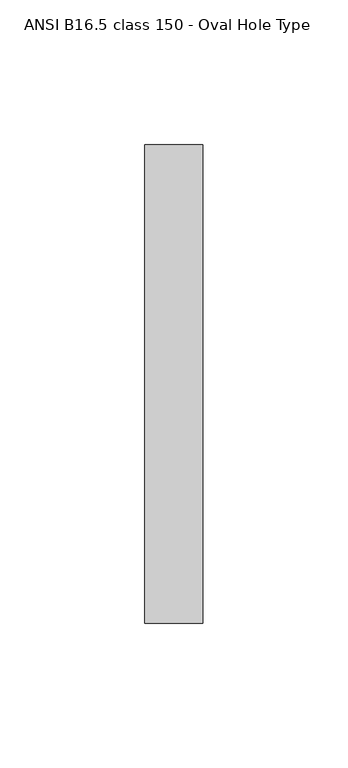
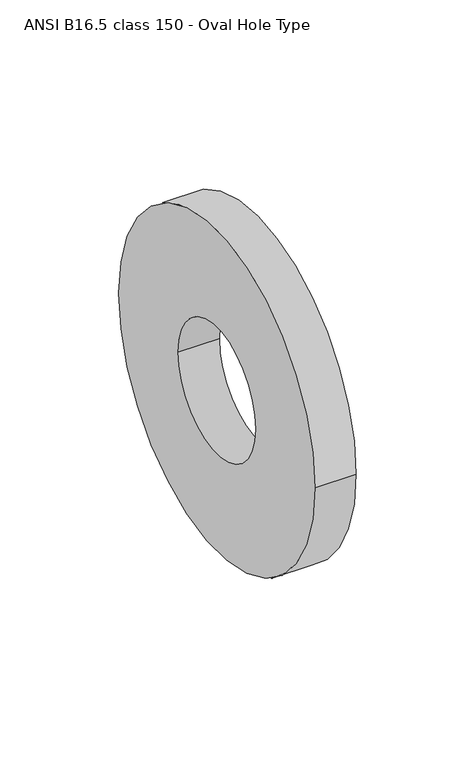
"""IFC4 building model written with IfcOpenShell, lengths in millimetres: pipe fitting geometry, Plumbing-Pipe-Fittings_Pexgol_Flange_Split-Flange-for-Flared-Ends : ANSI B16.5 class 150 - Oval Hole Type."""

from ifc_helpers import new_model, si_unit, point, frame, origin, origin_2d, place, context, project, spatial, circle_curve, trimmed, segment, composite_curve, outline, extrude, source, transform, mapped, element, save


def ansi_b16_5_class_150_oval_hole_type_57f7db80(model_context):
    return source(origin(), model_context, "Body", "SweptSolid", [
        extrude(outline(composite_curve([segment(trimmed(circle_curve(origin_2d(), 82.5), [point((-82.5, 0.0))], [point((82.5, 0.0))], False, "CARTESIAN"), True, "CONTINUOUS"), segment(trimmed(circle_curve(origin_2d(), 82.5), [point((82.5, 0.0))], [point((-82.5, 0.0))], False, "CARTESIAN"), True, "CONTINUOUS")], self_intersect=False), holes=[composite_curve([segment(trimmed(circle_curve(origin_2d(), 32.5), [point((-32.5, 0.0))], [point((32.5, 0.0))], True, "CARTESIAN"), True, "CONTINUOUS"), segment(trimmed(circle_curve(origin_2d(), 32.5), [point((32.5, 0.0))], [point((-32.5, 0.0))], True, "CARTESIAN"), True, "CONTINUOUS")], self_intersect=False)]), frame((0.0, 0.0, 0.0), z_axis=(1.0, 0.0, 0.0), x_axis=(0.0, 1.0, 0.0)), (0.0, 0.0, 1.0), 20.0),
    ])


if __name__ == "__main__":
    model = new_model("IFC4")
    model_context = context("Model", 3, world=origin())
    ifc_project = project(units=[si_unit("LENGTHUNIT", "METRE", prefix="MILLI")], contexts=[model_context])
    site = spatial("IfcSite", under=ifc_project)
    building = spatial("IfcBuilding", under=site)
    placement = place(None, origin())
    ansi_b16_5_class_150_oval_hole_type_shape = ansi_b16_5_class_150_oval_hole_type_57f7db80(model_context)
    element("IfcPipeFitting", 1, ObjectType="Plumbing-Pipe-Fittings_Pexgol_Flange_Split-Flange-for-Flared-Ends : ANSI B16.5 class 150 - Oval Hole Type", at=placement, inside=building, context=model_context, shape_type="MappedRepresentation", body=[
        mapped(ansi_b16_5_class_150_oval_hole_type_shape, transform((0.0, 0.0, 0.0), x_axis=(1.0, 0.0, 0.0), y_axis=(0.0, 1.0, 0.0), z_axis=(0.0, 0.0, 1.0))),
    ])
    save(model, "model.ifc")
